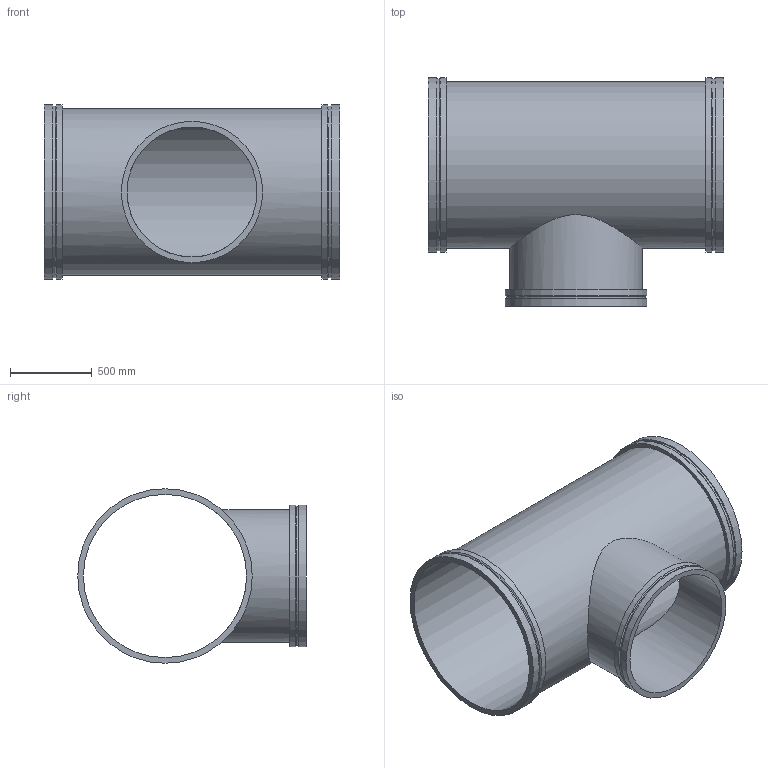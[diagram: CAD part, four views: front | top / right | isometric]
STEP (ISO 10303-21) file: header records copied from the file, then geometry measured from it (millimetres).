
FILE_DESCRIPTION(/* description */ ('VIC REDUCING TEE No W025 VR','CAx-IF Rec.Pracs.---Representation and Presentation of Product Manufacturing Information (PMI)---4.0---2014-10-13'),/* implementation_level */ '2;1');
FILE_NAME(/* name */ 'C:\Users\kkamble\AppData\Roaming\Autodesk\ApplicationPlugins\Back Up\Victaulic_Vic-Ring_Tee Reducing_No W25 VR (AGR)\Victaulic_Vic-Ring_Tee Reducing_No W25 VR (AGR)_40.0x32.0 (1000x800).stp',/* time_stamp */ '2020-09-10T11:55:51+05:00',/* author */ ('mchristi'),/* organization */ ('Victaulic'),/* preprocessor_version */ 'ST-DEVELOPER v17.2',/* originating_system */ 'Autodesk Inventor 2019',/* authorisation */ '');
FILE_SCHEMA (('AP242_MANAGED_MODEL_BASED_3D_ENGINEERING_MIM_LF { 1 0 10303 442 1 1 4 }'));
Length unit declared in the file: inch
Products named in the file (1): W25 VR-40.0x32.0
Bounding box: 1803.4 x 1397 x 1066.8 mm (x, y, z)
Volume: 83422680.7 mm3; surface area: 13276663.2 mm2
Topology: 1 solids, 1 shells, 25 faces, 68 edges, 52 vertices
Faces by surface type: cylinder 13, plane 9, cone 3
Full cylindrical faces by diameter (mm): 793.75 x1, 812.8 x1, 849.122 x1, 863.6 x2, 996.95 x1, 1016 x1, 1050.925 x2, 1066.8 x4
Entity records: 1251 total; most frequent: CARTESIAN_POINT 407, DIRECTION 190, ORIENTED_EDGE 136, AXIS2_PLACEMENT_3D 87, EDGE_CURVE 68, VERTEX_POINT 52, CIRCLE 48, EDGE_LOOP 36
